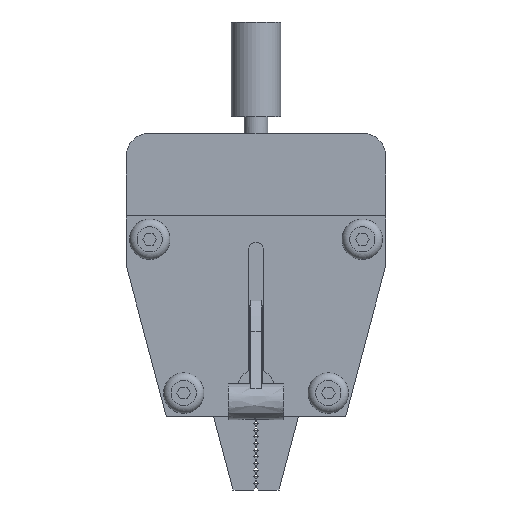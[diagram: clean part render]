
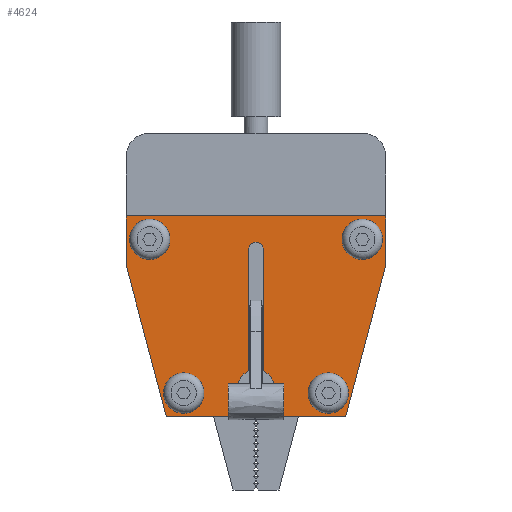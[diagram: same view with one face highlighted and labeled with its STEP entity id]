
A CAD part, front view. The second image highlights one B-rep face of the part: STEP entity #4624.
In plain terms, the highlighted planar face has unit normal (0, -1, 0).
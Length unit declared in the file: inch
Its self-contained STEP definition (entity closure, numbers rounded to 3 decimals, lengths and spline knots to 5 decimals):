
#3717=CARTESIAN_POINT('',(39.83777,-12.16778,-4.24421));
#3718=VERTEX_POINT('',#3717);
#3719=CARTESIAN_POINT('',(39.73127,-12.16778,-4.24421));
#3720=DIRECTION('',(0.0,1.0,0.0));
#3721=DIRECTION('',(1.0,0.0,0.0));
#3722=AXIS2_PLACEMENT_3D('',#3719,#3720,#3721);
#3723=CIRCLE('',#3722,0.1065);
#3724=EDGE_CURVE('',#3718,#3718,#3723,.T.);
#4466=CARTESIAN_POINT('',(39.56911,-12.16778,-4.00266));
#4467=DIRECTION('',(0.0,-1.0,0.0));
#4468=DIRECTION('',(1.0,0.0,0.0));
#4469=AXIS2_PLACEMENT_3D('',#4466,#4467,#4468);
#4470=PLANE('',#4469);
#4471=CARTESIAN_POINT('',(39.25561,-12.16778,-4.21421));
#4472=VERTEX_POINT('',#4471);
#4473=CARTESIAN_POINT('',(39.31311,-12.16778,-4.12693));
#4474=VERTEX_POINT('',#4473);
#4475=CARTESIAN_POINT('',(39.35061,-12.16778,-4.21421));
#4476=DIRECTION('',(0.,1.0,0.));
#4477=DIRECTION('',(-0.843,0.,0.538));
#4478=AXIS2_PLACEMENT_3D('',#4475,#4476,#4477);
#4479=CIRCLE('',#4478,0.095);
#4480=EDGE_CURVE('',#4472,#4474,#4479,.T.);
#4481=ORIENTED_EDGE('',*,*,#4480,.T.);
#4482=CARTESIAN_POINT('',(39.31311,-12.16778,-3.48671));
#4483=VERTEX_POINT('',#4482);
#4484=CARTESIAN_POINT('',(39.31311,-12.16778,-4.12693));
#4485=DIRECTION('',(0.0,0.0,1.0));
#4486=VECTOR('',#4485,0.64021);
#4487=LINE('',#4484,#4486);
#4488=EDGE_CURVE('',#4474,#4483,#4487,.T.);
#4489=ORIENTED_EDGE('',*,*,#4488,.T.);
#4490=CARTESIAN_POINT('',(39.38811,-12.16778,-3.48671));
#4491=VERTEX_POINT('',#4490);
#4492=CARTESIAN_POINT('',(39.35061,-12.16778,-3.48671));
#4493=DIRECTION('',(0.0,1.0,0.0));
#4494=DIRECTION('',(0.0,0.0,-1.0));
#4495=AXIS2_PLACEMENT_3D('',#4492,#4493,#4494);
#4496=CIRCLE('',#4495,0.0375);
#4497=EDGE_CURVE('',#4483,#4491,#4496,.T.);
#4498=ORIENTED_EDGE('',*,*,#4497,.T.);
#4499=CARTESIAN_POINT('',(39.38811,-12.16778,-4.12693));
#4500=VERTEX_POINT('',#4499);
#4501=CARTESIAN_POINT('',(39.38811,-12.16778,-3.48671));
#4502=DIRECTION('',(0.0,0.0,-1.0));
#4503=VECTOR('',#4502,0.64021);
#4504=LINE('',#4501,#4503);
#4505=EDGE_CURVE('',#4491,#4500,#4504,.T.);
#4506=ORIENTED_EDGE('',*,*,#4505,.T.);
#4507=CARTESIAN_POINT('',(39.44561,-12.16778,-4.21421));
#4508=VERTEX_POINT('',#4507);
#4509=CARTESIAN_POINT('',(39.35061,-12.16778,-4.21421));
#4510=DIRECTION('',(0.,1.,0.));
#4511=DIRECTION('',(0.843,0.,0.538));
#4512=AXIS2_PLACEMENT_3D('',#4509,#4510,#4511);
#4513=CIRCLE('',#4512,0.095);
#4514=EDGE_CURVE('',#4500,#4508,#4513,.T.);
#4515=ORIENTED_EDGE('',*,*,#4514,.T.);
#4516=CARTESIAN_POINT('',(39.44561,-12.16778,-4.36921));
#4517=VERTEX_POINT('',#4516);
#4518=CARTESIAN_POINT('',(39.44561,-12.16778,-4.21421));
#4519=DIRECTION('',(0.0,0.0,-1.0));
#4520=VECTOR('',#4519,0.155);
#4521=LINE('',#4518,#4520);
#4522=EDGE_CURVE('',#4508,#4517,#4521,.T.);
#4523=ORIENTED_EDGE('',*,*,#4522,.T.);
#4524=CARTESIAN_POINT('',(39.82311,-12.16778,-4.36921));
#4525=VERTEX_POINT('',#4524);
#4526=CARTESIAN_POINT('',(39.82311,-12.16778,-4.36921));
#4527=DIRECTION('',(-1.0,0.0,0.0));
#4528=VECTOR('',#4527,0.3775);
#4529=LINE('',#4526,#4528);
#4530=EDGE_CURVE('',#4525,#4517,#4529,.T.);
#4531=ORIENTED_EDGE('',*,*,#4530,.F.);
#4532=CARTESIAN_POINT('',(40.03561,-12.16778,-3.56831));
#4533=VERTEX_POINT('',#4532);
#4534=CARTESIAN_POINT('',(40.03561,-12.16778,-3.56831));
#4535=DIRECTION('',(-0.256,0.0,-0.967));
#4536=VECTOR('',#4535,0.82861);
#4537=LINE('',#4534,#4536);
#4538=EDGE_CURVE('',#4533,#4525,#4537,.T.);
#4539=ORIENTED_EDGE('',*,*,#4538,.F.);
#4540=CARTESIAN_POINT('',(40.03561,-12.16778,-3.31121));
#4541=VERTEX_POINT('',#4540);
#4542=CARTESIAN_POINT('',(40.03561,-12.16778,-3.31121));
#4543=DIRECTION('',(0.0,0.0,-1.0));
#4544=VECTOR('',#4543,0.2571);
#4545=LINE('',#4542,#4544);
#4546=EDGE_CURVE('',#4541,#4533,#4545,.T.);
#4547=ORIENTED_EDGE('',*,*,#4546,.F.);
#4548=CARTESIAN_POINT('',(38.66561,-12.16778,-3.31121));
#4549=VERTEX_POINT('',#4548);
#4550=CARTESIAN_POINT('',(40.03561,-12.16778,-3.31121));
#4551=DIRECTION('',(-1.0,0.0,0.0));
#4552=VECTOR('',#4551,1.37);
#4553=LINE('',#4550,#4552);
#4554=EDGE_CURVE('',#4541,#4549,#4553,.T.);
#4555=ORIENTED_EDGE('',*,*,#4554,.T.);
#4556=CARTESIAN_POINT('',(38.66561,-12.16778,-3.56831));
#4557=VERTEX_POINT('',#4556);
#4558=CARTESIAN_POINT('',(38.66561,-12.16778,-3.56831));
#4559=DIRECTION('',(0.0,0.0,1.0));
#4560=VECTOR('',#4559,0.2571);
#4561=LINE('',#4558,#4560);
#4562=EDGE_CURVE('',#4557,#4549,#4561,.T.);
#4563=ORIENTED_EDGE('',*,*,#4562,.F.);
#4564=CARTESIAN_POINT('',(38.87811,-12.16778,-4.36921));
#4565=VERTEX_POINT('',#4564);
#4566=CARTESIAN_POINT('',(38.87811,-12.16778,-4.36921));
#4567=DIRECTION('',(-0.256,0.0,0.967));
#4568=VECTOR('',#4567,0.82861);
#4569=LINE('',#4566,#4568);
#4570=EDGE_CURVE('',#4565,#4557,#4569,.T.);
#4571=ORIENTED_EDGE('',*,*,#4570,.F.);
#4572=CARTESIAN_POINT('',(39.25561,-12.16778,-4.36921));
#4573=VERTEX_POINT('',#4572);
#4574=CARTESIAN_POINT('',(39.25561,-12.16778,-4.36921));
#4575=DIRECTION('',(-1.0,0.0,0.0));
#4576=VECTOR('',#4575,0.3775);
#4577=LINE('',#4574,#4576);
#4578=EDGE_CURVE('',#4573,#4565,#4577,.T.);
#4579=ORIENTED_EDGE('',*,*,#4578,.F.);
#4580=CARTESIAN_POINT('',(39.25561,-12.16778,-4.36921));
#4581=DIRECTION('',(0.0,0.0,1.0));
#4582=VECTOR('',#4581,0.155);
#4583=LINE('',#4580,#4582);
#4584=EDGE_CURVE('',#4573,#4472,#4583,.T.);
#4585=ORIENTED_EDGE('',*,*,#4584,.T.);
#4586=EDGE_LOOP('',(#4481,#4489,#4498,#4506,#4515,#4523,#4531,#4539,#4547,#4555,#4563,#4571,#4579,#4585));
#4587=FACE_OUTER_BOUND('',#4586,.T.);
#4588=CARTESIAN_POINT('',(39.07644,-12.16778,-4.24421));
#4589=VERTEX_POINT('',#4588);
#4590=CARTESIAN_POINT('',(38.96994,-12.16778,-4.24421));
#4591=DIRECTION('',(0.0,1.0,0.0));
#4592=DIRECTION('',(1.0,0.0,0.0));
#4593=AXIS2_PLACEMENT_3D('',#4590,#4591,#4592);
#4594=CIRCLE('',#4593,0.1065);
#4595=EDGE_CURVE('',#4589,#4589,#4594,.T.);
#4596=ORIENTED_EDGE('',*,*,#4595,.T.);
#4597=EDGE_LOOP('',(#4596));
#4598=FACE_BOUND('',#4597,.T.);
#4599=ORIENTED_EDGE('',*,*,#3724,.T.);
#4600=EDGE_LOOP('',(#4599));
#4601=FACE_BOUND('',#4600,.T.);
#4602=CARTESIAN_POINT('',(40.01711,-12.16778,-3.43421));
#4603=VERTEX_POINT('',#4602);
#4604=CARTESIAN_POINT('',(39.91061,-12.16778,-3.43421));
#4605=DIRECTION('',(0.0,1.0,0.0));
#4606=DIRECTION('',(1.0,0.0,0.0));
#4607=AXIS2_PLACEMENT_3D('',#4604,#4605,#4606);
#4608=CIRCLE('',#4607,0.1065);
#4609=EDGE_CURVE('',#4603,#4603,#4608,.T.);
#4610=ORIENTED_EDGE('',*,*,#4609,.T.);
#4611=EDGE_LOOP('',(#4610));
#4612=FACE_BOUND('',#4611,.T.);
#4613=CARTESIAN_POINT('',(38.89711,-12.16778,-3.43421));
#4614=VERTEX_POINT('',#4613);
#4615=CARTESIAN_POINT('',(38.79061,-12.16778,-3.43421));
#4616=DIRECTION('',(0.0,1.0,0.0));
#4617=DIRECTION('',(1.0,0.0,0.0));
#4618=AXIS2_PLACEMENT_3D('',#4615,#4616,#4617);
#4619=CIRCLE('',#4618,0.1065);
#4620=EDGE_CURVE('',#4614,#4614,#4619,.T.);
#4621=ORIENTED_EDGE('',*,*,#4620,.T.);
#4622=EDGE_LOOP('',(#4621));
#4623=FACE_BOUND('',#4622,.T.);
#4624=ADVANCED_FACE('',(#4587,#4598,#4601,#4612,#4623),#4470,.T.);
